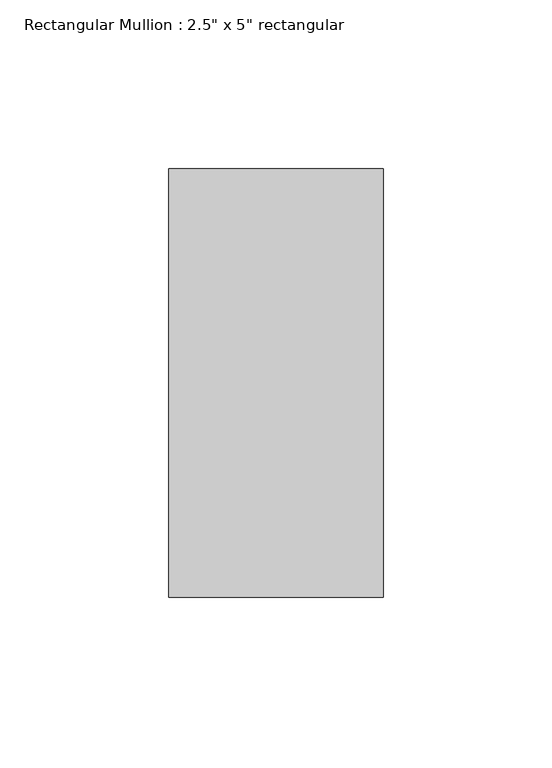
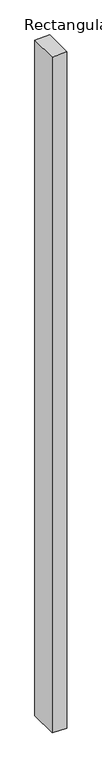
"""IFC4 building model written with IfcOpenShell, lengths in millimetres: member geometry."""

from ifc_helpers import new_model, si_unit, frame, origin, place, context, project, spatial, polyline, outline, extrude, source, transform, mapped, element, save


def member_6eb202bc(model_context):
    return source(origin(), model_context, "Body", "SweptSolid", [
        extrude(outline(polyline([(0.0, 0.0), (-1.2449182, -63.5), (-3056.6461936, -63.5), (-3057.8950685, 0.0), (0.0, 0.0)])), frame((0.0, -63.5, 0.0), z_axis=(0.0, 1.0, 0.0), x_axis=(0.0, 0.0, 1.0)), (0.0, 0.0, 1.0), 127.0),
    ])


if __name__ == "__main__":
    model = new_model("IFC4")
    model_context = context("Model", 3, world=origin())
    ifc_project = project(units=[si_unit("LENGTHUNIT", "METRE", prefix="MILLI")], contexts=[model_context])
    site = spatial("IfcSite", under=ifc_project)
    building = spatial("IfcBuilding", under=site)
    placement = place(None, origin())
    member_shape = member_6eb202bc(model_context)
    element("IfcMember", 1, ObjectType="Rectangular Mullion : 2.5\" x 5\" rectangular", at=placement, inside=building, context=model_context, shape_type="MappedRepresentation", body=[
        mapped(member_shape, transform((0.0, 0.0, 0.0), x_axis=(1.0, 0.0, 0.0), y_axis=(0.0, 1.0, 0.0), z_axis=(0.0, 0.0, 1.0))),
    ])
    save(model, "model.ifc")
